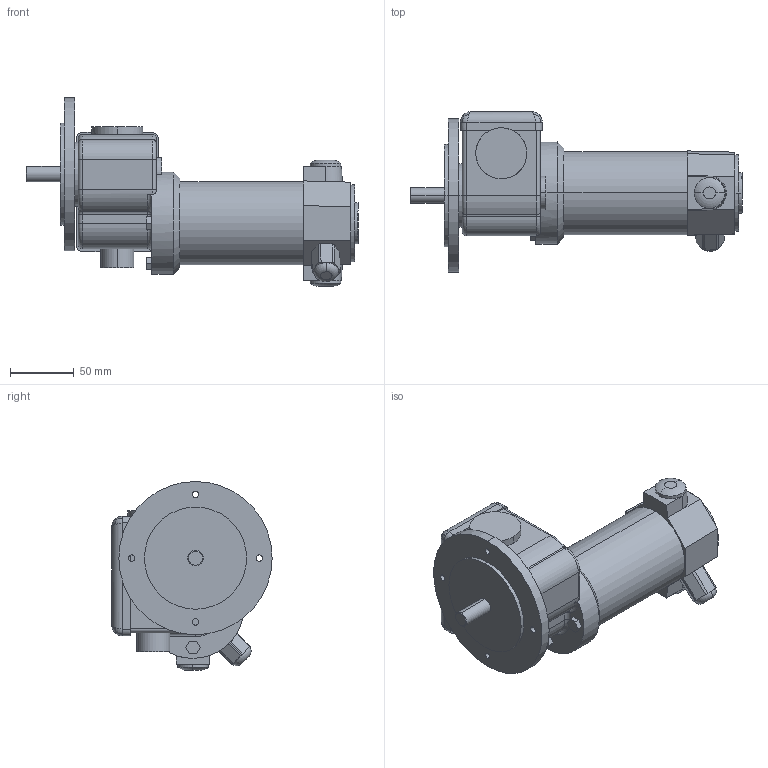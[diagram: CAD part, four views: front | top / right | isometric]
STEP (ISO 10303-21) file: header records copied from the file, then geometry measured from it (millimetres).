
FILE_DESCRIPTION(('OneSpaceDesigner STEP Export'),'2;1');
FILE_NAME('EPG04_GF23.stp','2008-07-16T12:57:32',(''),(''),'OneSpace Designer STEP processor (Jan. 2003) for AP214(CD)(Solid Model)','OneSpace Designer 12.01D 09-Jul-2004 (C) CoCreate Software GmbH','');
FILE_SCHEMA(('AUTOMOTIVE_DESIGN_CC2 {1 2 10303 214 -1 1 5 1}'));
Length unit declared in the file: millimetre
Products named in the file (2): EPG04_GF23
Assembly tree (1 placements, depth 2):
  EPG04_GF23
    EPG04_GF23
Bounding box: 260 x 125.5 x 148 mm (x, y, z)
Volume: 1212303.1 mm3; surface area: 103877.8 mm2
Topology: 1 solids, 1 shells, 167 faces, 409 edges, 258 vertices
Faces by surface type: plane 65, cylinder 65, torus 18, bspline 14, cone 4, sphere 1
Entity records: 7567 total; most frequent: CARTESIAN_POINT 3807, ORIENTED_EDGE 816, DIRECTION 678, EDGE_CURVE 408, VERTEX_POINT 258, AXIS2_PLACEMENT_3D 240, VECTOR 198, LINE 198
